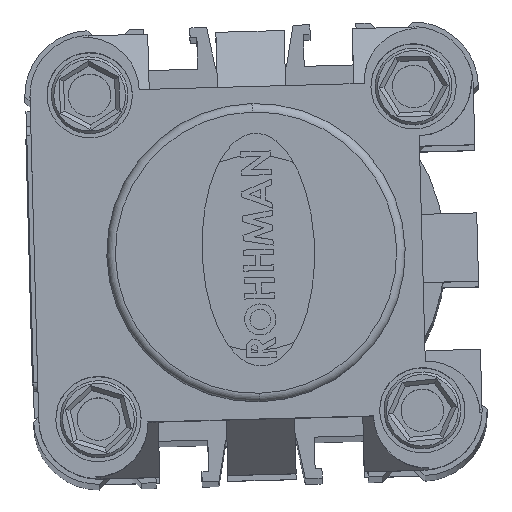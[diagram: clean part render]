
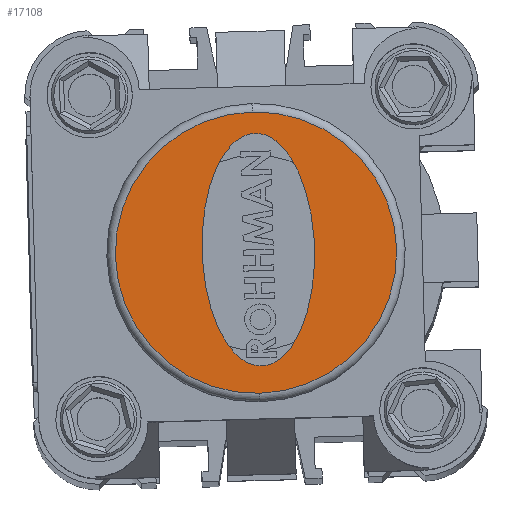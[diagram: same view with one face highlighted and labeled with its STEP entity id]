
A CAD part, top view. The second image highlights one B-rep face of the part: STEP entity #17108.
In plain terms, the highlighted planar face has unit normal (0, 0, 1) as drawn and (0, 0, -1) by its records, which use the part's own axes.
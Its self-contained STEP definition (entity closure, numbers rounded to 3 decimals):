
#30 = AXIS2_PLACEMENT_3D ( 'NONE', #17477, #15464, #27632 ) ;
#41 = EDGE_LOOP ( 'NONE', ( #5341, #5334 ) ) ;
#534 = CARTESIAN_POINT ( 'NONE',  ( 12.017, 25.719, -4. ) ) ;
#1444 = EDGE_CURVE ( 'NONE', #10315, #15975, #31433, .T. ) ;
#2418 = DIRECTION ( 'NONE',  ( 0., 0., -1. ) ) ;
#3946 = CARTESIAN_POINT ( 'NONE',  ( 12.017, 25.719, -4. ) ) ;
#5334 = ORIENTED_EDGE ( 'NONE', *, *, #26672, .F. ) ;
#5341 = ORIENTED_EDGE ( 'NONE', *, *, #1444, .F. ) ;
#6341 = ORIENTED_EDGE ( 'NONE', *, *, #23807, .T. ) ;
#6386 = DIRECTION ( 'NONE',  ( 0., 0., -1. ) ) ;
#6715 = AXIS2_PLACEMENT_3D ( 'NONE', #8555, #6386, #10856 ) ;
#8555 = CARTESIAN_POINT ( 'NONE',  ( 26., 26., -4. ) ) ;
#9138 =( BOUNDED_CURVE ( )  B_SPLINE_CURVE ( 3, ( #3946, #32337, #27039, #14047 ),
 .UNSPECIFIED., .F., .F. ) 
 B_SPLINE_CURVE_WITH_KNOTS ( ( 4, 4 ),
 ( 3.142, 6.283 ),
 .UNSPECIFIED. ) 
 CURVE ( )  GEOMETRIC_REPRESENTATION_ITEM ( )  RATIONAL_B_SPLINE_CURVE ( ( 1., 0.333, 0.333, 1. ) ) 
 REPRESENTATION_ITEM ( '' )  );
#10210 = CARTESIAN_POINT ( 'NONE',  ( 39.297, 25.719, -4. ) ) ;
#10315 = VERTEX_POINT ( 'NONE', #10210 ) ;
#10405 = CIRCLE ( 'NONE', #6715, 16.5 ) ;
#10802 = CARTESIAN_POINT ( 'NONE',  ( 12.017, 12.525, -4. ) ) ;
#10856 = DIRECTION ( 'NONE',  ( -1., 0., 0. ) ) ;
#11107 = CARTESIAN_POINT ( 'NONE',  ( 42.5, 26., -4. ) ) ;
#11365 = EDGE_CURVE ( 'NONE', #30639, #24207, #10405, .T. ) ;
#14047 = CARTESIAN_POINT ( 'NONE',  ( 39.297, 25.719, -4. ) ) ;
#14967 = AXIS2_PLACEMENT_3D ( 'NONE', #22023, #2418, #19690 ) ;
#15464 = DIRECTION ( 'NONE',  ( 0., 0., -1. ) ) ;
#15639 = CARTESIAN_POINT ( 'NONE',  ( 9.5, 26., -4. ) ) ;
#15975 = VERTEX_POINT ( 'NONE', #21206 ) ;
#16568 = CIRCLE ( 'NONE', #14967, 16.5 ) ;
#17108 = ADVANCED_FACE ( 'NONE', ( #30595, #24956 ), #27470, .T. ) ;
#17477 = CARTESIAN_POINT ( 'NONE',  ( 26., 26., -4. ) ) ;
#19690 = DIRECTION ( 'NONE',  ( -1., 0., 0. ) ) ;
#21206 = CARTESIAN_POINT ( 'NONE',  ( 12.017, 25.719, -4. ) ) ;
#22023 = CARTESIAN_POINT ( 'NONE',  ( 26., 26., -4. ) ) ;
#23256 = CARTESIAN_POINT ( 'NONE',  ( 39.297, 25.719, -4. ) ) ;
#23807 = EDGE_CURVE ( 'NONE', #24207, #30639, #16568, .T. ) ;
#24207 = VERTEX_POINT ( 'NONE', #15639 ) ;
#24956 = FACE_OUTER_BOUND ( 'NONE', #30100, .T. ) ;
#26672 = EDGE_CURVE ( 'NONE', #15975, #10315, #9138, .T. ) ;
#27039 = CARTESIAN_POINT ( 'NONE',  ( 39.297, 38.913, -4. ) ) ;
#27470 = PLANE ( 'NONE',  #30 ) ;
#27632 = DIRECTION ( 'NONE',  ( -1., 0., 0. ) ) ;
#29936 = ORIENTED_EDGE ( 'NONE', *, *, #11365, .T. ) ;
#30100 = EDGE_LOOP ( 'NONE', ( #6341, #29936 ) ) ;
#30424 = CARTESIAN_POINT ( 'NONE',  ( 39.297, 12.525, -4. ) ) ;
#30595 = FACE_BOUND ( 'NONE', #41, .T. ) ;
#30639 = VERTEX_POINT ( 'NONE', #11107 ) ;
#31433 =( BOUNDED_CURVE ( )  B_SPLINE_CURVE ( 3, ( #23256, #30424, #10802, #534 ),
 .UNSPECIFIED., .F., .T. ) 
 B_SPLINE_CURVE_WITH_KNOTS ( ( 4, 4 ),
 ( 0., 3.142 ),
 .UNSPECIFIED. ) 
 CURVE ( )  GEOMETRIC_REPRESENTATION_ITEM ( )  RATIONAL_B_SPLINE_CURVE ( ( 1., 0.333, 0.333, 1. ) ) 
 REPRESENTATION_ITEM ( '' )  );
#32337 = CARTESIAN_POINT ( 'NONE',  ( 12.017, 38.913, -4. ) ) ;
